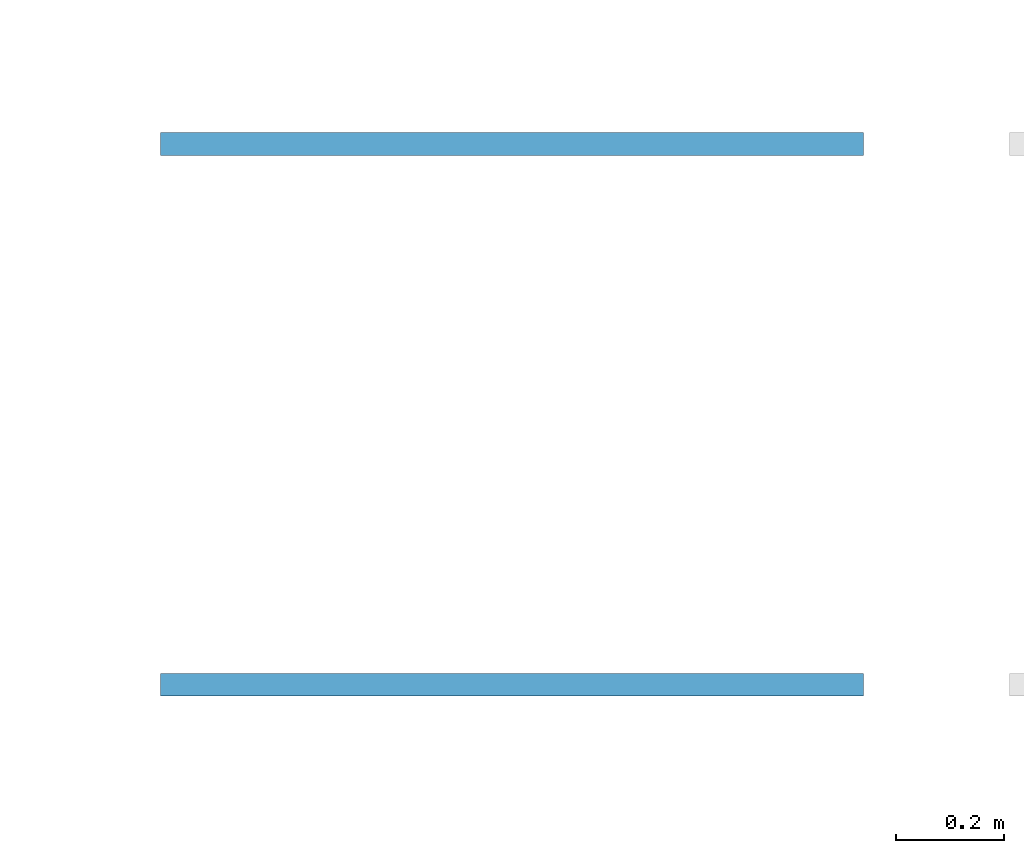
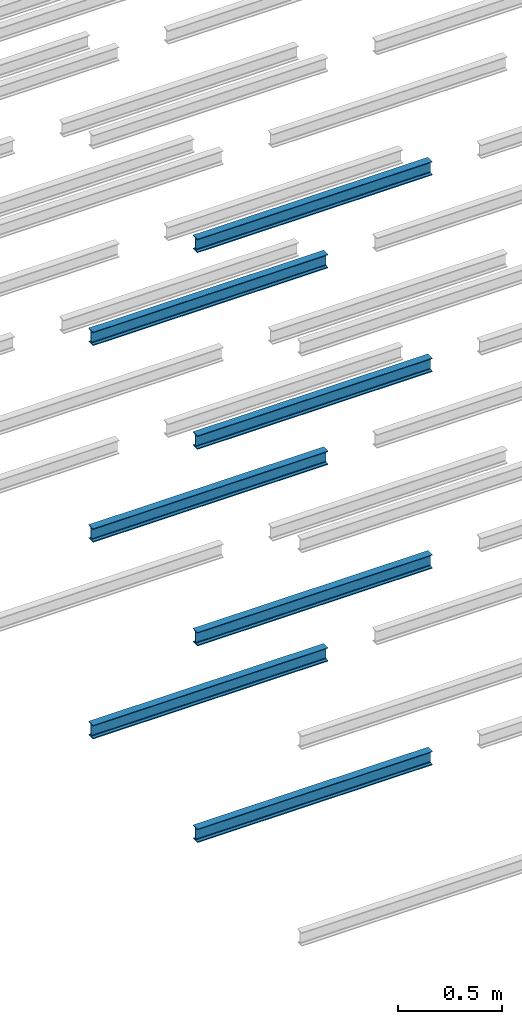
# One storey, part 33 of 290: 7 beams.
"""IFC2X3 building model written with IfcOpenShell, lengths in metres."""

from ifc_helpers import new_model, entity, si_unit, converted_unit, derived_unit, direction, frame, frame_2d, origin, place, context, subcontext, project, spatial, polyline, circle_curve, parameter, trimmed, segment, composite_curve, outline, extrude, material, type_object, element, save


model = new_model("IFC2X3")

# Units and contexts
model_context = context("Model", 3, precision=1e-05, world=origin(), true_north=direction((6.12303176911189e-17, 1.0)))
body_context = subcontext(model_context, "Body", "Model", "MODEL_VIEW")
ifc_project = project(units=[si_unit("LENGTHUNIT", "METRE"), si_unit("AREAUNIT", "SQUARE_METRE"), si_unit("VOLUMEUNIT", "CUBIC_METRE"), converted_unit("PLANEANGLEUNIT", "DEGREE", entity("IfcRatioMeasure", 0.0174532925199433), si_unit("PLANEANGLEUNIT", "RADIAN"), dimensions=[0, 0, 0, 0, 0, 0, 0]), si_unit("MASSUNIT", "GRAM", prefix="KILO"), derived_unit("MASSDENSITYUNIT", [(si_unit("MASSUNIT", "GRAM", prefix="KILO"), 1), (si_unit("LENGTHUNIT", "METRE"), -3)]), derived_unit("MOMENTOFINERTIAUNIT", [(si_unit("LENGTHUNIT", "METRE"), 4)]), si_unit("TIMEUNIT", "SECOND"), si_unit("FREQUENCYUNIT", "HERTZ"), si_unit("THERMODYNAMICTEMPERATUREUNIT", "DEGREE_CELSIUS"), derived_unit("THERMALTRANSMITTANCEUNIT", [(si_unit("MASSUNIT", "GRAM", prefix="KILO"), 1), (si_unit("THERMODYNAMICTEMPERATUREUNIT", "KELVIN"), -1), (si_unit("TIMEUNIT", "SECOND"), -3)]), derived_unit("VOLUMETRICFLOWRATEUNIT", [(si_unit("LENGTHUNIT", "METRE"), 3), (si_unit("TIMEUNIT", "SECOND"), -1)]), si_unit("ELECTRICCURRENTUNIT", "AMPERE"), si_unit("ELECTRICVOLTAGEUNIT", "VOLT"), si_unit("POWERUNIT", "WATT"), si_unit("FORCEUNIT", "NEWTON", prefix="KILO"), si_unit("ILLUMINANCEUNIT", "LUX"), si_unit("LUMINOUSFLUXUNIT", "LUMEN"), si_unit("LUMINOUSINTENSITYUNIT", "CANDELA"), derived_unit("USERDEFINED", [(si_unit("MASSUNIT", "GRAM", prefix="KILO"), -1), (si_unit("LENGTHUNIT", "METRE"), -2), (si_unit("TIMEUNIT", "SECOND"), 3), (si_unit("LUMINOUSFLUXUNIT", "LUMEN"), 1)]), derived_unit("LINEARVELOCITYUNIT", [(si_unit("LENGTHUNIT", "METRE"), 1), (si_unit("TIMEUNIT", "SECOND"), -1)]), si_unit("PRESSUREUNIT", "PASCAL"), derived_unit("USERDEFINED", [(si_unit("LENGTHUNIT", "METRE"), -2), (si_unit("MASSUNIT", "GRAM", prefix="KILO"), 1), (si_unit("TIMEUNIT", "SECOND"), -2)]), derived_unit("LINEARFORCEUNIT", [(si_unit("MASSUNIT", "GRAM", prefix="KILO"), 1), (si_unit("LENGTHUNIT", "METRE"), 1), (si_unit("TIMEUNIT", "SECOND"), -2), (si_unit("LENGTHUNIT", "METRE"), -1)]), derived_unit("PLANARFORCEUNIT", [(si_unit("MASSUNIT", "GRAM", prefix="KILO"), 1), (si_unit("LENGTHUNIT", "METRE"), 1), (si_unit("TIMEUNIT", "SECOND"), -2), (si_unit("LENGTHUNIT", "METRE"), -2)])], contexts=[model_context])

# Site, building, storey
site_placement = place(None, origin())
site = spatial("IfcSite", under=ifc_project, at=site_placement, Name="Default", CompositionType="ELEMENT")
building_placement = place(site_placement, origin())
building = spatial("IfcBuilding", under=site, at=building_placement, CompositionType="ELEMENT")
storey_placement = place(building_placement, frame((0.0, 0.0, 4.0)))
storey = spatial("IfcBuildingStorey", under=building, at=storey_placement, Name="01_OG", CompositionType="ELEMENT", Elevation=4.0)

# Beams
ifc_material = material(Name="Metall - Baustahl S235")
beam_type = type_object("IfcBeamType", Name="IPN Träger:IPN 80", PredefinedType="NOTDEFINED")
beam_1_placement = place(storey_placement, frame((-170.780111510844, 26.036588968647, -1.73), z_axis=(0.0, 0.0, 1.0), x_axis=(-1.0, 0.0, 0.0)))
element("IfcBeam", 1, at=beam_1_placement, inside=storey, type_object=beam_type, material=ifc_material, Name="IPN Träger:IPN 80", ObjectType="IPN Träger:IPN 80", context=body_context, shape_type="SweptSolid", body=[
    extrude(outline(composite_curve([segment(polyline([(0.0375704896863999, -0.0209999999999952), (0.0399999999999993, -0.0209999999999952)]), True, "CONTINUOUS"), segment(polyline([(0.0399999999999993, -0.0209999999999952), (0.0399999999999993, 0.0210000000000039)]), True, "CONTINUOUS"), segment(polyline([(0.0399999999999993, 0.0210000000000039), (0.0375704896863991, 0.0210000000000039)]), True, "CONTINUOUS"), segment(trimmed(circle_curve(frame_2d((0.0375704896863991, 0.0187000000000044), x_axis=(0.0, 1.0)), 0.00230000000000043), [parameter(0.0)], [parameter(82.0299999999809)], True, "PARAMETER"), True, "CONTINUOUS"), segment(polyline([(0.0352927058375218, 0.019018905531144), (0.0333732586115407, 0.00530924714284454)]), True, "CONTINUOUS"), segment(trimmed(circle_curve(frame_2d((0.0295109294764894, 0.005850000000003), x_axis=(0.990340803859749, -0.138654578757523)), 0.00389999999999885), [parameter(277.969999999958)], [parameter(0.0)], True, "PARAMETER"), False, "CONTINUOUS"), segment(polyline([(0.0295109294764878, 0.00195000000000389), (-0.0295109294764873, 0.00195000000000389)]), True, "CONTINUOUS"), segment(trimmed(circle_curve(frame_2d((-0.0295109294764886, 0.005850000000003), x_axis=(0.0, -1.0)), 0.00389999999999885), [parameter(277.969999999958)], [parameter(0.0)], True, "PARAMETER"), False, "CONTINUOUS"), segment(polyline([(-0.0333732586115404, 0.00530924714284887), (-0.0352927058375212, 0.0190189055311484)]), True, "CONTINUOUS"), segment(trimmed(circle_curve(frame_2d((-0.0375704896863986, 0.0187000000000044), x_axis=(0.990340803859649, 0.138654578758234)), 0.00230000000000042), [parameter(0.0)], [parameter(82.0299999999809)], True, "PARAMETER"), True, "CONTINUOUS"), segment(polyline([(-0.0375704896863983, 0.0210000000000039), (-0.0400000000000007, 0.0210000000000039)]), True, "CONTINUOUS"), segment(polyline([(-0.0400000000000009, 0.0210000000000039), (-0.0400000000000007, -0.0209999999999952)]), True, "CONTINUOUS"), segment(polyline([(-0.0400000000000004, -0.0209999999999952), (-0.0375704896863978, -0.0209999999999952)]), True, "CONTINUOUS"), segment(trimmed(circle_curve(frame_2d((-0.0375704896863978, -0.0186999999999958), x_axis=(0.0, -1.0)), 0.00230000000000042), [parameter(0.0)], [parameter(82.0299999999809)], True, "PARAMETER"), True, "CONTINUOUS"), segment(polyline([(-0.0352927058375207, -0.0190189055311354), (-0.0333732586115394, -0.00530924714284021)]), True, "CONTINUOUS"), segment(trimmed(circle_curve(frame_2d((-0.0295109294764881, -0.00584999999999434), x_axis=(-0.990340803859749, 0.138654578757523)), 0.00389999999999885), [parameter(277.969999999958)], [parameter(0.0)], True, "PARAMETER"), False, "CONTINUOUS"), segment(polyline([(-0.0295109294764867, -0.00194999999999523), (0.0295109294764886, -0.00194999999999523)]), True, "CONTINUOUS"), segment(trimmed(circle_curve(frame_2d((0.0295109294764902, -0.00584999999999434), x_axis=(0.0, 1.0)), 0.0038999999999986), [parameter(277.969999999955)], [parameter(0.0)], True, "PARAMETER"), False, "CONTINUOUS"), segment(polyline([(0.0333732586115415, -0.00530924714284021), (0.0352927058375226, -0.0190189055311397)]), True, "CONTINUOUS"), segment(trimmed(circle_curve(frame_2d((0.0375704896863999, -0.0186999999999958), x_axis=(-0.990340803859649, -0.138654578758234)), 0.00230000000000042), [parameter(0.0)], [parameter(82.0299999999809)], True, "PARAMETER"), True, "CONTINUOUS")], self_intersect=False)), frame((0.00010000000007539, 0.0209999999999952, -0.0400000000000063), z_axis=(1.0, 0.0, 0.0), x_axis=(0.0, 0.0, -1.0)), (0.0, 0.0, 1.0), 1.29990000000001),
])
beam_2_placement = place(storey_placement, frame((-170.780111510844, 26.036588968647, -0.579999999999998), z_axis=(0.0, 0.0, 1.0), x_axis=(-1.0, 0.0, 0.0)))
element("IfcBeam", 2, at=beam_2_placement, inside=storey, type_object=beam_type, material=ifc_material, Name="IPN Träger:IPN 80", ObjectType="IPN Träger:IPN 80", context=body_context, shape_type="SweptSolid", body=[
    extrude(outline(composite_curve([segment(polyline([(0.0375704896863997, -0.0209999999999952), (0.039999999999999, -0.0209999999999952)]), True, "CONTINUOUS"), segment(polyline([(0.039999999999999, -0.0209999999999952), (0.039999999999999, 0.0210000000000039)]), True, "CONTINUOUS"), segment(polyline([(0.039999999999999, 0.0210000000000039), (0.0375704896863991, 0.0210000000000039)]), True, "CONTINUOUS"), segment(trimmed(circle_curve(frame_2d((0.0375704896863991, 0.0187000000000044), x_axis=(0.0, 1.0)), 0.00230000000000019), [parameter(0.0)], [parameter(82.02999999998)], True, "PARAMETER"), True, "CONTINUOUS"), segment(polyline([(0.0352927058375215, 0.019018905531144), (0.0333732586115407, 0.00530924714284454)]), True, "CONTINUOUS"), segment(trimmed(circle_curve(frame_2d((0.0295109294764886, 0.005850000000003), x_axis=(0.990340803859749, -0.138654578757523)), 0.00389999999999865), [parameter(277.969999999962)], [parameter(0.0)], True, "PARAMETER"), False, "CONTINUOUS"), segment(polyline([(0.0295109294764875, 0.00195000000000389), (-0.0295109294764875, 0.00195000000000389)]), True, "CONTINUOUS"), segment(trimmed(circle_curve(frame_2d((-0.0295109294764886, 0.005850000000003), x_axis=(0.0, -1.0)), 0.00389999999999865), [parameter(277.969999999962)], [parameter(0.0)], True, "PARAMETER"), False, "CONTINUOUS"), segment(polyline([(-0.0333732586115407, 0.00530924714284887), (-0.0352927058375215, 0.0190189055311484)]), True, "CONTINUOUS"), segment(trimmed(circle_curve(frame_2d((-0.0375704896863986, 0.0187000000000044), x_axis=(0.990340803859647, 0.138654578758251)), 0.00230000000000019), [parameter(0.0)], [parameter(82.02999999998)], True, "PARAMETER"), True, "CONTINUOUS"), segment(polyline([(-0.0375704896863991, 0.0210000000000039), (-0.0400000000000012, 0.0210000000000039)]), True, "CONTINUOUS"), segment(polyline([(-0.0400000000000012, 0.0210000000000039), (-0.0400000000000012, -0.0209999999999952)]), True, "CONTINUOUS"), segment(polyline([(-0.0400000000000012, -0.0209999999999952), (-0.037570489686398, -0.0209999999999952)]), True, "CONTINUOUS"), segment(trimmed(circle_curve(frame_2d((-0.037570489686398, -0.0186999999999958), x_axis=(0.0, -1.0)), 0.00230000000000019), [parameter(0.0)], [parameter(82.02999999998)], True, "PARAMETER"), True, "CONTINUOUS"), segment(polyline([(-0.035292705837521, -0.0190189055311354), (-0.0333732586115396, -0.00530924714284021)]), True, "CONTINUOUS"), segment(trimmed(circle_curve(frame_2d((-0.0295109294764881, -0.00584999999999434), x_axis=(-0.990340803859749, 0.138654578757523)), 0.00389999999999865), [parameter(277.969999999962)], [parameter(0.0)], True, "PARAMETER"), False, "CONTINUOUS"), segment(polyline([(-0.029510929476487, -0.00194999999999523), (0.0295109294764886, -0.00194999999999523)]), True, "CONTINUOUS"), segment(trimmed(circle_curve(frame_2d((0.0295109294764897, -0.00584999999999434), x_axis=(0.0, 1.0)), 0.00389999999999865), [parameter(277.969999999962)], [parameter(0.0)], True, "PARAMETER"), False, "CONTINUOUS"), segment(polyline([(0.0333732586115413, -0.00530924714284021), (0.0352927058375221, -0.0190189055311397)]), True, "CONTINUOUS"), segment(trimmed(circle_curve(frame_2d((0.0375704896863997, -0.0186999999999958), x_axis=(-0.990340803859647, -0.138654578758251)), 0.00230000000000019), [parameter(0.0)], [parameter(82.02999999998)], True, "PARAMETER"), True, "CONTINUOUS")], self_intersect=False)), frame((0.000100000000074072, 0.0209999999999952, -0.0400000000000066), z_axis=(1.0, 0.0, 0.0), x_axis=(0.0, 0.0, -1.0)), (0.0, 0.0, 1.0), 1.29990000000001),
])
beam_3_placement = place(storey_placement, frame((-170.780111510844, 26.036588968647, 0.570000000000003), z_axis=(0.0, 0.0, 1.0), x_axis=(-1.0, 0.0, 0.0)))
element("IfcBeam", 3, at=beam_3_placement, inside=storey, type_object=beam_type, material=ifc_material, Name="IPN Träger:IPN 80", ObjectType="IPN Träger:IPN 80", context=body_context, shape_type="SweptSolid", body=[
    extrude(outline(composite_curve([segment(polyline([(0.0375704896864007, -0.0209999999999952), (0.0400000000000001, -0.0209999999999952)]), True, "CONTINUOUS"), segment(polyline([(0.0400000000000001, -0.0209999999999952), (0.0400000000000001, 0.0210000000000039)]), True, "CONTINUOUS"), segment(polyline([(0.0400000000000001, 0.0210000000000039), (0.0375704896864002, 0.0210000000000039)]), True, "CONTINUOUS"), segment(trimmed(circle_curve(frame_2d((0.0375704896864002, 0.0187000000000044), x_axis=(0.0, 1.0)), 0.00230000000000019), [parameter(0.0)], [parameter(82.02999999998)], True, "PARAMETER"), True, "CONTINUOUS"), segment(polyline([(0.0352927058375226, 0.019018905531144), (0.0333732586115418, 0.00530924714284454)]), True, "CONTINUOUS"), segment(trimmed(circle_curve(frame_2d((0.0295109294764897, 0.005850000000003), x_axis=(0.990340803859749, -0.138654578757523)), 0.00389999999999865), [parameter(277.969999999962)], [parameter(0.0)], True, "PARAMETER"), False, "CONTINUOUS"), segment(polyline([(0.0295109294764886, 0.00195000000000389), (-0.0295109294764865, 0.00195000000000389)]), True, "CONTINUOUS"), segment(trimmed(circle_curve(frame_2d((-0.0295109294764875, 0.005850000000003), x_axis=(0.0, -1.0)), 0.00389999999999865), [parameter(277.969999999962)], [parameter(0.0)], True, "PARAMETER"), False, "CONTINUOUS"), segment(polyline([(-0.0333732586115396, 0.00530924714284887), (-0.0352927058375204, 0.0190189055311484)]), True, "CONTINUOUS"), segment(trimmed(circle_curve(frame_2d((-0.0375704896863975, 0.0187000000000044), x_axis=(0.990340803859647, 0.138654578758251)), 0.00230000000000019), [parameter(0.0)], [parameter(82.02999999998)], True, "PARAMETER"), True, "CONTINUOUS"), segment(polyline([(-0.037570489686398, 0.0210000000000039), (-0.0400000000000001, 0.0210000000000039)]), True, "CONTINUOUS"), segment(polyline([(-0.0400000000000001, 0.0210000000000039), (-0.0400000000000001, -0.0209999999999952)]), True, "CONTINUOUS"), segment(polyline([(-0.0400000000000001, -0.0209999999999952), (-0.0375704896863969, -0.0209999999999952)]), True, "CONTINUOUS"), segment(trimmed(circle_curve(frame_2d((-0.0375704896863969, -0.0186999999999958), x_axis=(0.0, -1.0)), 0.00230000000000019), [parameter(0.0)], [parameter(82.02999999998)], True, "PARAMETER"), True, "CONTINUOUS"), segment(polyline([(-0.0352927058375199, -0.0190189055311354), (-0.0333732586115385, -0.00530924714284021)]), True, "CONTINUOUS"), segment(trimmed(circle_curve(frame_2d((-0.029510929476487, -0.00584999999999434), x_axis=(-0.990340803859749, 0.138654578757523)), 0.00389999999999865), [parameter(277.969999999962)], [parameter(0.0)], True, "PARAMETER"), False, "CONTINUOUS"), segment(polyline([(-0.0295109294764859, -0.00194999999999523), (0.0295109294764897, -0.00194999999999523)]), True, "CONTINUOUS"), segment(trimmed(circle_curve(frame_2d((0.0295109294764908, -0.00584999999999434), x_axis=(0.0, 1.0)), 0.00389999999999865), [parameter(277.969999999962)], [parameter(0.0)], True, "PARAMETER"), False, "CONTINUOUS"), segment(polyline([(0.0333732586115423, -0.00530924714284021), (0.0352927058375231, -0.0190189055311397)]), True, "CONTINUOUS"), segment(trimmed(circle_curve(frame_2d((0.0375704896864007, -0.0186999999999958), x_axis=(-0.990340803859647, -0.138654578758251)), 0.00230000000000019), [parameter(0.0)], [parameter(82.02999999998)], True, "PARAMETER"), True, "CONTINUOUS")], self_intersect=False)), frame((0.000100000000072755, 0.0209999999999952, -0.0400000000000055), z_axis=(1.0, 0.0, 0.0), x_axis=(0.0, 0.0, -1.0)), (0.0, 0.0, 1.0), 1.29990000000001),
])
beam_4_placement = place(storey_placement, frame((-170.780111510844, 25.036588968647, -1.73), z_axis=(0.0, 0.0, 1.0), x_axis=(-1.0, 0.0, 0.0)))
element("IfcBeam", 4, at=beam_4_placement, inside=storey, type_object=beam_type, material=ifc_material, Name="IPN Träger:IPN 80", ObjectType="IPN Träger:IPN 80", context=body_context, shape_type="SweptSolid", body=[
    extrude(outline(composite_curve([segment(polyline([(0.0375704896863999, -0.0209999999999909), (0.0399999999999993, -0.0209999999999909)]), True, "CONTINUOUS"), segment(polyline([(0.0399999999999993, -0.0209999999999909), (0.0399999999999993, 0.0210000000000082)]), True, "CONTINUOUS"), segment(polyline([(0.0399999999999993, 0.0210000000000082), (0.0375704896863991, 0.0210000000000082)]), True, "CONTINUOUS"), segment(trimmed(circle_curve(frame_2d((0.0375704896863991, 0.0187000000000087), x_axis=(0.0, 1.0)), 0.00230000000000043), [parameter(0.0)], [parameter(82.0299999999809)], True, "PARAMETER"), True, "CONTINUOUS"), segment(polyline([(0.0352927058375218, 0.0190189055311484), (0.0333732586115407, 0.00530924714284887)]), True, "CONTINUOUS"), segment(trimmed(circle_curve(frame_2d((0.0295109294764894, 0.00585000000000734), x_axis=(0.990340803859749, -0.138654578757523)), 0.00389999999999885), [parameter(277.969999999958)], [parameter(0.0)], True, "PARAMETER"), False, "CONTINUOUS"), segment(polyline([(0.0295109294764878, 0.00195000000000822), (-0.0295109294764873, 0.00195000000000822)]), True, "CONTINUOUS"), segment(trimmed(circle_curve(frame_2d((-0.0295109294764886, 0.00585000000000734), x_axis=(0.0, -1.0)), 0.00389999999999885), [parameter(277.969999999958)], [parameter(0.0)], True, "PARAMETER"), False, "CONTINUOUS"), segment(polyline([(-0.0333732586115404, 0.0053092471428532), (-0.0352927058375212, 0.0190189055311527)]), True, "CONTINUOUS"), segment(trimmed(circle_curve(frame_2d((-0.0375704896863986, 0.0187000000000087), x_axis=(0.990340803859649, 0.138654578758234)), 0.00230000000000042), [parameter(0.0)], [parameter(82.0299999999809)], True, "PARAMETER"), True, "CONTINUOUS"), segment(polyline([(-0.0375704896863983, 0.0210000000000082), (-0.0400000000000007, 0.0210000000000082)]), True, "CONTINUOUS"), segment(polyline([(-0.0400000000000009, 0.0210000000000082), (-0.0400000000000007, -0.0209999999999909)]), True, "CONTINUOUS"), segment(polyline([(-0.0400000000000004, -0.0209999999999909), (-0.0375704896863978, -0.0209999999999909)]), True, "CONTINUOUS"), segment(trimmed(circle_curve(frame_2d((-0.0375704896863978, -0.0186999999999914), x_axis=(0.0, -1.0)), 0.00230000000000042), [parameter(0.0)], [parameter(82.0299999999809)], True, "PARAMETER"), True, "CONTINUOUS"), segment(polyline([(-0.0352927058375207, -0.019018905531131), (-0.0333732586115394, -0.00530924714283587)]), True, "CONTINUOUS"), segment(trimmed(circle_curve(frame_2d((-0.0295109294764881, -0.00584999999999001), x_axis=(-0.990340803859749, 0.138654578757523)), 0.00389999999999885), [parameter(277.969999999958)], [parameter(0.0)], True, "PARAMETER"), False, "CONTINUOUS"), segment(polyline([(-0.0295109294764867, -0.00194999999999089), (0.0295109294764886, -0.00194999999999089)]), True, "CONTINUOUS"), segment(trimmed(circle_curve(frame_2d((0.0295109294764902, -0.00584999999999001), x_axis=(0.0, 1.0)), 0.0038999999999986), [parameter(277.969999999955)], [parameter(0.0)], True, "PARAMETER"), False, "CONTINUOUS"), segment(polyline([(0.0333732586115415, -0.00530924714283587), (0.0352927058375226, -0.0190189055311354)]), True, "CONTINUOUS"), segment(trimmed(circle_curve(frame_2d((0.0375704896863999, -0.0186999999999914), x_axis=(-0.990340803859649, -0.138654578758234)), 0.00230000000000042), [parameter(0.0)], [parameter(82.0299999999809)], True, "PARAMETER"), True, "CONTINUOUS")], self_intersect=False)), frame((0.00010000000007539, 0.0209999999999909, -0.0400000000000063), z_axis=(1.0, 0.0, 0.0), x_axis=(0.0, 0.0, -1.0)), (0.0, 0.0, 1.0), 1.29990000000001),
])
beam_5_placement = place(storey_placement, frame((-170.780111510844, 25.036588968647, -0.579999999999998), z_axis=(0.0, 0.0, 1.0), x_axis=(-1.0, 0.0, 0.0)))
element("IfcBeam", 5, at=beam_5_placement, inside=storey, type_object=beam_type, material=ifc_material, Name="IPN Träger:IPN 80", ObjectType="IPN Träger:IPN 80", context=body_context, shape_type="SweptSolid", body=[
    extrude(outline(composite_curve([segment(polyline([(0.0375704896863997, -0.0209999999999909), (0.039999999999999, -0.0209999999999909)]), True, "CONTINUOUS"), segment(polyline([(0.039999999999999, -0.0209999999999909), (0.039999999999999, 0.0210000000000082)]), True, "CONTINUOUS"), segment(polyline([(0.039999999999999, 0.0210000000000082), (0.0375704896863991, 0.0210000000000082)]), True, "CONTINUOUS"), segment(trimmed(circle_curve(frame_2d((0.0375704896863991, 0.0187000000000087), x_axis=(0.0, 1.0)), 0.00230000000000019), [parameter(0.0)], [parameter(82.02999999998)], True, "PARAMETER"), True, "CONTINUOUS"), segment(polyline([(0.0352927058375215, 0.0190189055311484), (0.0333732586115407, 0.00530924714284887)]), True, "CONTINUOUS"), segment(trimmed(circle_curve(frame_2d((0.0295109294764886, 0.00585000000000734), x_axis=(0.990340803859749, -0.138654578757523)), 0.00389999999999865), [parameter(277.969999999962)], [parameter(0.0)], True, "PARAMETER"), False, "CONTINUOUS"), segment(polyline([(0.0295109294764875, 0.00195000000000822), (-0.0295109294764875, 0.00195000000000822)]), True, "CONTINUOUS"), segment(trimmed(circle_curve(frame_2d((-0.0295109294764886, 0.00585000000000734), x_axis=(0.0, -1.0)), 0.00389999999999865), [parameter(277.969999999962)], [parameter(0.0)], True, "PARAMETER"), False, "CONTINUOUS"), segment(polyline([(-0.0333732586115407, 0.0053092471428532), (-0.0352927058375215, 0.0190189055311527)]), True, "CONTINUOUS"), segment(trimmed(circle_curve(frame_2d((-0.0375704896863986, 0.0187000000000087), x_axis=(0.990340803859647, 0.138654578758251)), 0.00230000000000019), [parameter(0.0)], [parameter(82.02999999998)], True, "PARAMETER"), True, "CONTINUOUS"), segment(polyline([(-0.0375704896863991, 0.0210000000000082), (-0.0400000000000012, 0.0210000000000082)]), True, "CONTINUOUS"), segment(polyline([(-0.0400000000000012, 0.0210000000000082), (-0.0400000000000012, -0.0209999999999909)]), True, "CONTINUOUS"), segment(polyline([(-0.0400000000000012, -0.0209999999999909), (-0.037570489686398, -0.0209999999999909)]), True, "CONTINUOUS"), segment(trimmed(circle_curve(frame_2d((-0.037570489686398, -0.0186999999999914), x_axis=(0.0, -1.0)), 0.00230000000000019), [parameter(0.0)], [parameter(82.02999999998)], True, "PARAMETER"), True, "CONTINUOUS"), segment(polyline([(-0.035292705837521, -0.019018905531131), (-0.0333732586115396, -0.00530924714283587)]), True, "CONTINUOUS"), segment(trimmed(circle_curve(frame_2d((-0.0295109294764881, -0.00584999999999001), x_axis=(-0.990340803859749, 0.138654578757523)), 0.00389999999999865), [parameter(277.969999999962)], [parameter(0.0)], True, "PARAMETER"), False, "CONTINUOUS"), segment(polyline([(-0.029510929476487, -0.00194999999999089), (0.0295109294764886, -0.00194999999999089)]), True, "CONTINUOUS"), segment(trimmed(circle_curve(frame_2d((0.0295109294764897, -0.00584999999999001), x_axis=(0.0, 1.0)), 0.00389999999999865), [parameter(277.969999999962)], [parameter(0.0)], True, "PARAMETER"), False, "CONTINUOUS"), segment(polyline([(0.0333732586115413, -0.00530924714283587), (0.0352927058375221, -0.0190189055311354)]), True, "CONTINUOUS"), segment(trimmed(circle_curve(frame_2d((0.0375704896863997, -0.0186999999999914), x_axis=(-0.990340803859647, -0.138654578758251)), 0.00230000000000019), [parameter(0.0)], [parameter(82.02999999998)], True, "PARAMETER"), True, "CONTINUOUS")], self_intersect=False)), frame((0.000100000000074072, 0.0209999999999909, -0.0400000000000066), z_axis=(1.0, 0.0, 0.0), x_axis=(0.0, 0.0, -1.0)), (0.0, 0.0, 1.0), 1.29990000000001),
])
beam_6_placement = place(storey_placement, frame((-170.780111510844, 25.036588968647, 0.570000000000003), z_axis=(0.0, 0.0, 1.0), x_axis=(-1.0, 0.0, 0.0)))
element("IfcBeam", 6, at=beam_6_placement, inside=storey, type_object=beam_type, material=ifc_material, Name="IPN Träger:IPN 80", ObjectType="IPN Träger:IPN 80", context=body_context, shape_type="SweptSolid", body=[
    extrude(outline(composite_curve([segment(polyline([(0.0375704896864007, -0.0209999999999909), (0.0400000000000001, -0.0209999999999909)]), True, "CONTINUOUS"), segment(polyline([(0.0400000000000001, -0.0209999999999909), (0.0400000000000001, 0.0210000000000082)]), True, "CONTINUOUS"), segment(polyline([(0.0400000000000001, 0.0210000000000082), (0.0375704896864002, 0.0210000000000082)]), True, "CONTINUOUS"), segment(trimmed(circle_curve(frame_2d((0.0375704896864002, 0.0187000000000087), x_axis=(0.0, 1.0)), 0.00230000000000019), [parameter(0.0)], [parameter(82.02999999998)], True, "PARAMETER"), True, "CONTINUOUS"), segment(polyline([(0.0352927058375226, 0.0190189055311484), (0.0333732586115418, 0.00530924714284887)]), True, "CONTINUOUS"), segment(trimmed(circle_curve(frame_2d((0.0295109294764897, 0.00585000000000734), x_axis=(0.990340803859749, -0.138654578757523)), 0.00389999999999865), [parameter(277.969999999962)], [parameter(0.0)], True, "PARAMETER"), False, "CONTINUOUS"), segment(polyline([(0.0295109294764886, 0.00195000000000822), (-0.0295109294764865, 0.00195000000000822)]), True, "CONTINUOUS"), segment(trimmed(circle_curve(frame_2d((-0.0295109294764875, 0.00585000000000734), x_axis=(0.0, -1.0)), 0.00389999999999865), [parameter(277.969999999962)], [parameter(0.0)], True, "PARAMETER"), False, "CONTINUOUS"), segment(polyline([(-0.0333732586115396, 0.0053092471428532), (-0.0352927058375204, 0.0190189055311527)]), True, "CONTINUOUS"), segment(trimmed(circle_curve(frame_2d((-0.0375704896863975, 0.0187000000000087), x_axis=(0.990340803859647, 0.138654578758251)), 0.00230000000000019), [parameter(0.0)], [parameter(82.02999999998)], True, "PARAMETER"), True, "CONTINUOUS"), segment(polyline([(-0.037570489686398, 0.0210000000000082), (-0.0400000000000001, 0.0210000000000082)]), True, "CONTINUOUS"), segment(polyline([(-0.0400000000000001, 0.0210000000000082), (-0.0400000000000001, -0.0209999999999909)]), True, "CONTINUOUS"), segment(polyline([(-0.0400000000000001, -0.0209999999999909), (-0.0375704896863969, -0.0209999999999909)]), True, "CONTINUOUS"), segment(trimmed(circle_curve(frame_2d((-0.0375704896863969, -0.0186999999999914), x_axis=(0.0, -1.0)), 0.00230000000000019), [parameter(0.0)], [parameter(82.02999999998)], True, "PARAMETER"), True, "CONTINUOUS"), segment(polyline([(-0.0352927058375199, -0.019018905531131), (-0.0333732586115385, -0.00530924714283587)]), True, "CONTINUOUS"), segment(trimmed(circle_curve(frame_2d((-0.029510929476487, -0.00584999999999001), x_axis=(-0.990340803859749, 0.138654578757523)), 0.00389999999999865), [parameter(277.969999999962)], [parameter(0.0)], True, "PARAMETER"), False, "CONTINUOUS"), segment(polyline([(-0.0295109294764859, -0.00194999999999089), (0.0295109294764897, -0.00194999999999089)]), True, "CONTINUOUS"), segment(trimmed(circle_curve(frame_2d((0.0295109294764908, -0.00584999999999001), x_axis=(0.0, 1.0)), 0.00389999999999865), [parameter(277.969999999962)], [parameter(0.0)], True, "PARAMETER"), False, "CONTINUOUS"), segment(polyline([(0.0333732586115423, -0.00530924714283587), (0.0352927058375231, -0.0190189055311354)]), True, "CONTINUOUS"), segment(trimmed(circle_curve(frame_2d((0.0375704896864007, -0.0186999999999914), x_axis=(-0.990340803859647, -0.138654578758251)), 0.00230000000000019), [parameter(0.0)], [parameter(82.02999999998)], True, "PARAMETER"), True, "CONTINUOUS")], self_intersect=False)), frame((0.000100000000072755, 0.0209999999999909, -0.0400000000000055), z_axis=(1.0, 0.0, 0.0), x_axis=(0.0, 0.0, -1.0)), (0.0, 0.0, 1.0), 1.29990000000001),
])
beam_7_placement = place(storey_placement, frame((-170.780111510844, 25.036588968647, 1.72), z_axis=(0.0, 0.0, 1.0), x_axis=(-1.0, 0.0, 0.0)))
element("IfcBeam", 7, at=beam_7_placement, inside=storey, type_object=beam_type, material=ifc_material, Name="IPN Träger:IPN 80", ObjectType="IPN Träger:IPN 80", context=body_context, shape_type="SweptSolid", body=[
    extrude(outline(composite_curve([segment(polyline([(0.0375704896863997, -0.0209999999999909), (0.0399999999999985, -0.0209999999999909)]), True, "CONTINUOUS"), segment(polyline([(0.0399999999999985, -0.0209999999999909), (0.0399999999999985, 0.0210000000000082)]), True, "CONTINUOUS"), segment(polyline([(0.0399999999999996, 0.0210000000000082), (0.0375704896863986, 0.0210000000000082)]), True, "CONTINUOUS"), segment(trimmed(circle_curve(frame_2d((0.0375704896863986, 0.0187000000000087), x_axis=(0.0, 1.0)), 0.00230000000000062), [parameter(0.0)], [parameter(82.0299999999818)], True, "PARAMETER"), True, "CONTINUOUS"), segment(polyline([(0.0352927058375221, 0.0190189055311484), (0.0333732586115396, 0.00530924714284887)]), True, "CONTINUOUS"), segment(trimmed(circle_curve(frame_2d((0.0295109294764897, 0.00585000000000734), x_axis=(0.990340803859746, -0.138654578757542)), 0.00389999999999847), [parameter(277.969999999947)], [parameter(0.0)], True, "PARAMETER"), False, "CONTINUOUS"), segment(polyline([(0.0295109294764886, 0.00195000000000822), (-0.0295109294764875, 0.00195000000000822)]), True, "CONTINUOUS"), segment(trimmed(circle_curve(frame_2d((-0.0295109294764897, 0.00585000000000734), x_axis=(0.0, -1.0)), 0.00389999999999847), [parameter(277.969999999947)], [parameter(0.0)], True, "PARAMETER"), False, "CONTINUOUS"), segment(polyline([(-0.0333732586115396, 0.0053092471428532), (-0.0352927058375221, 0.0190189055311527)]), True, "CONTINUOUS"), segment(trimmed(circle_curve(frame_2d((-0.0375704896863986, 0.0187000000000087), x_axis=(0.990340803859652, 0.138654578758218)), 0.00230000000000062), [parameter(0.0)], [parameter(82.0299999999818)], True, "PARAMETER"), True, "CONTINUOUS"), segment(polyline([(-0.0375704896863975, 0.0210000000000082), (-0.0400000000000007, 0.0210000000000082)]), True, "CONTINUOUS"), segment(polyline([(-0.0400000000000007, 0.0210000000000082), (-0.0400000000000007, -0.0209999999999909)]), True, "CONTINUOUS"), segment(polyline([(-0.0400000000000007, -0.0209999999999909), (-0.0375704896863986, -0.0209999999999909)]), True, "CONTINUOUS"), segment(trimmed(circle_curve(frame_2d((-0.0375704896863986, -0.0186999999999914), x_axis=(0.0, -1.0)), 0.00230000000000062), [parameter(0.0)], [parameter(82.0299999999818)], True, "PARAMETER"), True, "CONTINUOUS"), segment(polyline([(-0.035292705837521, -0.019018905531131), (-0.0333732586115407, -0.00530924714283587)]), True, "CONTINUOUS"), segment(trimmed(circle_curve(frame_2d((-0.0295109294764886, -0.00584999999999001), x_axis=(-0.990340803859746, 0.138654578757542)), 0.00389999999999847), [parameter(277.969999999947)], [parameter(0.0)], True, "PARAMETER"), False, "CONTINUOUS"), segment(polyline([(-0.0295109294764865, -0.00194999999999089), (0.0295109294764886, -0.00194999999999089)]), True, "CONTINUOUS"), segment(trimmed(circle_curve(frame_2d((0.0295109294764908, -0.00584999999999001), x_axis=(0.0, 1.0)), 0.00389999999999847), [parameter(277.969999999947)], [parameter(0.0)], True, "PARAMETER"), False, "CONTINUOUS"), segment(polyline([(0.0333732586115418, -0.00530924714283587), (0.0352927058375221, -0.0190189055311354)]), True, "CONTINUOUS"), segment(trimmed(circle_curve(frame_2d((0.0375704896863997, -0.0186999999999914), x_axis=(-0.990340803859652, -0.138654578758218)), 0.00230000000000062), [parameter(0.0)], [parameter(82.0299999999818)], True, "PARAMETER"), True, "CONTINUOUS")], self_intersect=False)), frame((0.000100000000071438, 0.0209999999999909, -0.040000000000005), z_axis=(1.0, 0.0, 0.0), x_axis=(0.0, 0.0, -1.0)), (0.0, 0.0, 1.0), 1.29990000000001),
])

save(model, "model.ifc")
